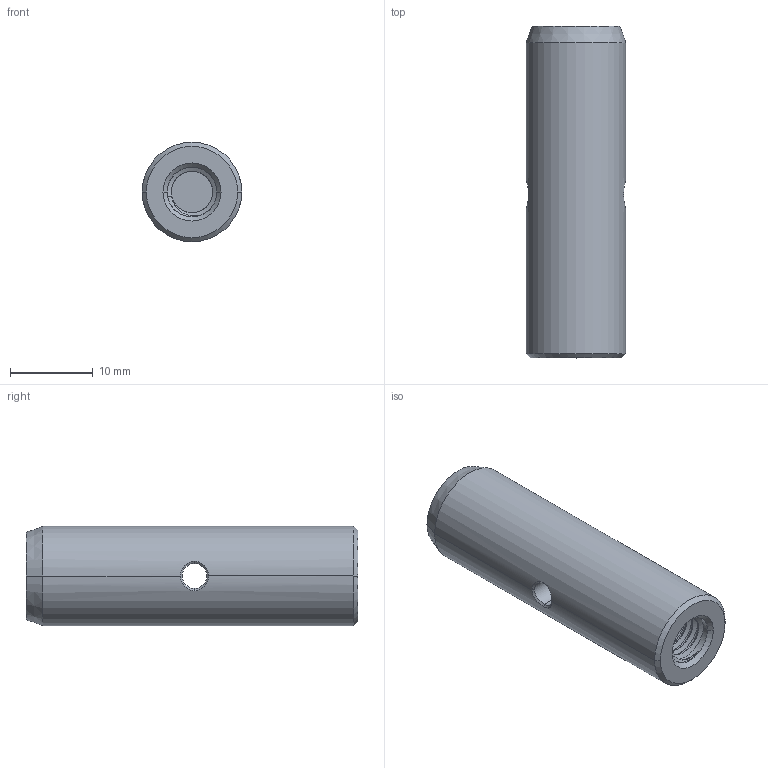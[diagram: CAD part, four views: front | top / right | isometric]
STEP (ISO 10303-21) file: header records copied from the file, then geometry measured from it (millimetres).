
FILE_DESCRIPTION((''),'2;1');
FILE_NAME('PCA4-S','2020-10-27T',('Administrator'),(''),'CREO PARAMETRIC BY PTC INC, 2015290','CREO PARAMETRIC BY PTC INC, 2015290','');
FILE_SCHEMA(('CONFIG_CONTROL_DESIGN'));
Length unit declared in the file: millimetre
Products named in the file (1): PCA4-S
Bounding box: 12 x 40 x 12 mm (x, y, z)
Volume: 3965.6 mm3; surface area: 2310.9 mm2
Topology: 1 solids, 1 shells, 127 faces, 333 edges, 208 vertices
Faces by surface type: cylinder 66, bspline 49, cone 8, plane 4
Entity records: 11853 total; most frequent: CARTESIAN_POINT 9208, ORIENTED_EDGE 666, EDGE_CURVE 333, DIRECTION 323, VERTEX_POINT 208, B_SPLINE_CURVE_WITH_KNOTS 187, EDGE_LOOP 129, FACE_OUTER_BOUND 127
